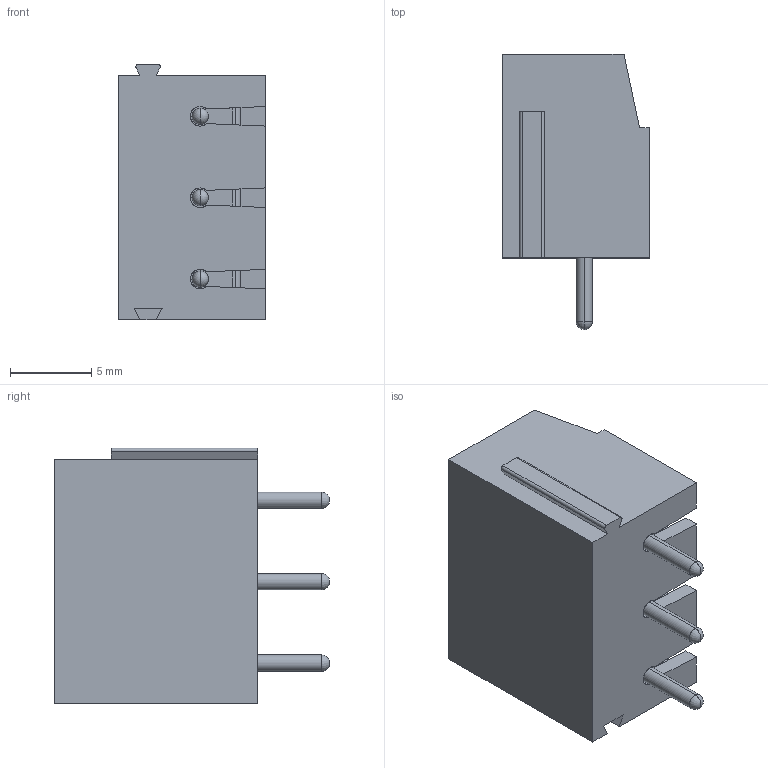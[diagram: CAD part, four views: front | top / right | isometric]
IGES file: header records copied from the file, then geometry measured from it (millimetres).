
Start section: SolidWorks IGES file using analytic representation for surfaces
Global section: file name: D:\OneDrive\00_MOITECH\01_Projects\2020\Metaltex\Modeling\Componentes\BR0\\_Dn\BR003.IGS; native system: SolidWorks 2019; preprocessor: SolidWorks 2019; author: Alan; date: 200220.004056; units: millimetre
Bounding box: 9 x 16.9 x 15.7 mm (x, y, z)
Surface area: 1593.6 mm2 (no closed solid volume)
Topology: 0 solids, 0 shells, 225 faces, 2064 edges, 2058 vertices
Faces by surface type: bspline 139, revolution 86
